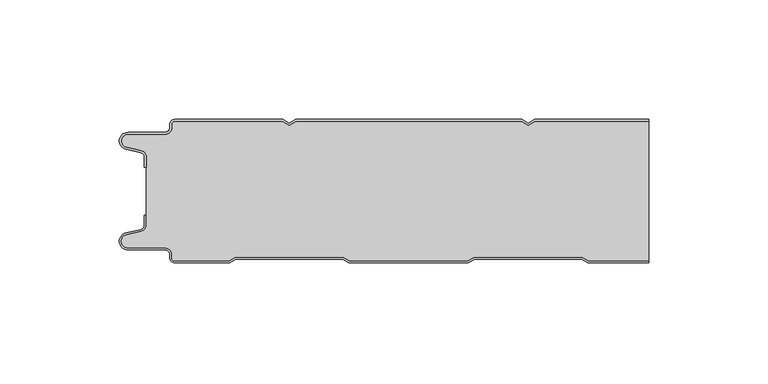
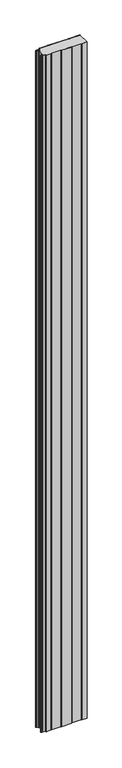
"""IFC4 building model written with IfcOpenShell, lengths in millimetres: plate geometry, PMH_Curtain-PaneL-Standard : ACH_PMH_Stone-wool-Panel_60M."""

from ifc_helpers import new_model, si_unit, point, frame_2d, origin, origin_with_axes, place, context, project, spatial, polyline, circle_curve, trimmed, segment, composite_curve, outline, extrude, source, transform, mapped, element, save


def plate_21ab614c(model_context):
    return source(origin(), model_context, "Body", "SweptSolid", [
        extrude(outline(composite_curve([segment(trimmed(circle_curve(frame_2d((-102.0, -15.878557)), 2.0), [point((-100.0, -15.878557))], [point((-101.5500978, -13.9298169))], True, "CARTESIAN"), True, "CONTINUOUS"), segment(polyline([(-101.5500978, -13.9298169), (-107.7098239, -12.507732)]), True, "CONTINUOUS"), segment(trimmed(circle_curve(frame_2d((-106.9, -9.0)), 3.6), [point((-107.7098239, -12.507732))], [point((-106.9, -5.4))], False, "CARTESIAN"), True, "CONTINUOUS"), segment(polyline([(-106.9, -5.4), (-91.4, -5.4)]), True, "CONTINUOUS"), segment(trimmed(circle_curve(frame_2d((-91.4, -3.4)), 2.0), [point((-91.4, -5.4))], [point((-89.4, -3.4))], True, "CARTESIAN"), True, "CONTINUOUS"), segment(polyline([(-89.4, -3.4), (-89.4, -2.0)]), True, "CONTINUOUS"), segment(trimmed(circle_curve(frame_2d((-87.4, -2.0)), 2.0), [point((-89.4, -2.0))], [point((-87.4, 0.0))], False, "CARTESIAN"), True, "CONTINUOUS"), segment(polyline([(-87.4, 0.0), (-42.0999995, 0.0), (-39.4, -1.5588455), (-36.7000005, 0.0), (57.9000005, 0.0), (60.6, -1.5588455), (63.2999995, 0.0), (111.0, 0.0), (111.0, -0.8), (63.5143588, -0.8), (60.6, -2.482606), (57.6856412, -0.8), (-36.4856412, -0.8), (-39.4, -2.482606), (-42.3143588, -0.8), (-87.4, -0.8)]), True, "CONTINUOUS"), segment(trimmed(circle_curve(frame_2d((-87.4, -2.0)), 1.2), [point((-87.4, -0.8))], [point((-88.6, -2.0))], True, "CARTESIAN"), True, "CONTINUOUS"), segment(polyline([(-88.6, -2.0), (-88.6, -3.4)]), True, "CONTINUOUS"), segment(trimmed(circle_curve(frame_2d((-91.4, -3.4)), 2.8), [point((-88.6, -3.4))], [point((-91.4, -6.2))], False, "CARTESIAN"), True, "CONTINUOUS"), segment(polyline([(-91.4, -6.2), (-106.9, -6.2)]), True, "CONTINUOUS"), segment(trimmed(circle_curve(frame_2d((-106.9, -9.0)), 2.8), [point((-106.9, -6.2))], [point((-107.529863, -11.7282362))], True, "CARTESIAN"), True, "CONTINUOUS"), segment(polyline([(-107.529863, -11.7282362), (-101.370137, -13.150321)]), True, "CONTINUOUS"), segment(trimmed(circle_curve(frame_2d((-102.0, -15.878557)), 2.8), [point((-101.370137, -13.150321))], [point((-99.2, -15.878557))], False, "CARTESIAN"), True, "CONTINUOUS"), segment(polyline([(-99.2, -15.878557), (-99.2, -20.0), (-100.0, -20.0), (-100.0, -15.878557)]), True, "CONTINUOUS")], self_intersect=False)), origin_with_axes(), (0.0, 0.0, 1.0), 3500.0),
        extrude(outline(composite_curve([segment(polyline([(-99.2, -44.121443), (-99.2, -15.8785573)]), True, "CONTINUOUS"), segment(trimmed(circle_curve(frame_2d((-102.0, -15.8785573)), 2.8), [point((-99.2, -15.8785573))], [point((-101.370137, -13.1503212))], True, "CARTESIAN"), True, "CONTINUOUS"), segment(polyline([(-101.370137, -13.1503212), (-107.5298631, -11.7282362)]), True, "CONTINUOUS"), segment(trimmed(circle_curve(frame_2d((-106.9, -9.0)), 2.8), [point((-107.5298631, -11.7282362))], [point((-106.9, -6.2))], False, "CARTESIAN"), True, "CONTINUOUS"), segment(polyline([(-106.9, -6.2), (-91.4000001, -6.2)]), True, "CONTINUOUS"), segment(trimmed(circle_curve(frame_2d((-91.4000001, -3.4)), 2.8), [point((-91.4000001, -6.2))], [point((-88.6000001, -3.4))], True, "CARTESIAN"), True, "CONTINUOUS"), segment(polyline([(-88.6000001, -3.4), (-88.6000001, -2.0)]), True, "CONTINUOUS"), segment(trimmed(circle_curve(frame_2d((-87.4000001, -2.0)), 1.2), [point((-88.6000001, -2.0))], [point((-87.4000001, -0.8))], False, "CARTESIAN"), True, "CONTINUOUS"), segment(polyline([(-87.4000001, -0.8), (-42.3143589, -0.8), (-39.4000001, -2.482606), (-36.4856412, -0.8), (57.6856411, -0.8), (60.5999999, -2.482606), (63.5143588, -0.8), (111.0, -0.8), (111.0, -59.2), (85.8105122, -59.2), (83.2124346, -57.7), (37.9837184, -57.7), (35.3856408, -59.2), (-14.1894878, -59.2), (-16.7875654, -57.7), (-62.0162816, -57.7), (-64.6143592, -59.2), (-87.4, -59.2)]), True, "CONTINUOUS"), segment(trimmed(circle_curve(frame_2d((-87.4, -58.0)), 1.2), [point((-87.4, -59.2))], [point((-88.6, -58.0))], False, "CARTESIAN"), True, "CONTINUOUS"), segment(polyline([(-88.6, -58.0), (-88.6, -56.5999998)]), True, "CONTINUOUS"), segment(trimmed(circle_curve(frame_2d((-91.4, -56.5999998)), 2.8), [point((-88.6, -56.5999998))], [point((-91.4, -53.7999998))], True, "CARTESIAN"), True, "CONTINUOUS"), segment(polyline([(-91.4, -53.7999998), (-106.9, -53.7999998)]), True, "CONTINUOUS"), segment(trimmed(circle_curve(frame_2d((-106.9, -51.0)), 2.7999998), [point((-106.9, -53.7999998))], [point((-107.529863, -48.271764))], False, "CARTESIAN"), True, "CONTINUOUS"), segment(polyline([(-107.529863, -48.271764), (-101.370137, -46.8496792)]), True, "CONTINUOUS"), segment(trimmed(circle_curve(frame_2d((-102.0, -44.121443)), 2.8), [point((-101.370137, -46.8496792))], [point((-99.2, -44.121443))], True, "CARTESIAN"), True, "CONTINUOUS")], self_intersect=False)), origin_with_axes(), (0.0, 0.0, 1.0), 3500.0),
        extrude(outline(composite_curve([segment(trimmed(circle_curve(frame_2d((-87.4, -58.0)), 2.0), [point((-87.4, -60.0))], [point((-89.4, -58.0))], False, "CARTESIAN"), True, "CONTINUOUS"), segment(polyline([(-89.4, -58.0), (-89.4, -56.6)]), True, "CONTINUOUS"), segment(trimmed(circle_curve(frame_2d((-91.4, -56.6)), 2.0), [point((-89.4, -56.6))], [point((-91.4, -54.6))], True, "CARTESIAN"), True, "CONTINUOUS"), segment(polyline([(-91.4, -54.6), (-106.9, -54.6)]), True, "CONTINUOUS"), segment(trimmed(circle_curve(frame_2d((-106.9, -51.0)), 3.6), [point((-106.9, -54.6))], [point((-107.7098239, -47.4922678))], False, "CARTESIAN"), True, "CONTINUOUS"), segment(polyline([(-107.7098239, -47.4922678), (-101.5500979, -46.070183)]), True, "CONTINUOUS"), segment(trimmed(circle_curve(frame_2d((-102.0, -44.121443)), 2.0), [point((-101.5500979, -46.070183))], [point((-100.0, -44.121443))], True, "CARTESIAN"), True, "CONTINUOUS"), segment(polyline([(-100.0, -44.121443), (-100.0, -40.0), (-99.2, -40.0), (-99.2, -44.121443)]), True, "CONTINUOUS"), segment(trimmed(circle_curve(frame_2d((-102.0, -44.121443)), 2.8), [point((-99.2, -44.121443))], [point((-101.370137, -46.8496792))], False, "CARTESIAN"), True, "CONTINUOUS"), segment(polyline([(-101.370137, -46.8496792), (-107.529863, -48.271764)]), True, "CONTINUOUS"), segment(trimmed(circle_curve(frame_2d((-106.9, -51.0)), 2.8), [point((-107.529863, -48.271764))], [point((-106.9, -53.8))], True, "CARTESIAN"), True, "CONTINUOUS"), segment(polyline([(-106.9, -53.8), (-91.4, -53.8)]), True, "CONTINUOUS"), segment(trimmed(circle_curve(frame_2d((-91.4, -56.6)), 2.8), [point((-91.4, -53.8))], [point((-88.6, -56.6))], False, "CARTESIAN"), True, "CONTINUOUS"), segment(polyline([(-88.6, -56.6), (-88.6, -58.0)]), True, "CONTINUOUS"), segment(trimmed(circle_curve(frame_2d((-87.4, -58.0)), 1.2), [point((-88.6, -58.0))], [point((-87.4, -59.2))], True, "CARTESIAN"), True, "CONTINUOUS"), segment(polyline([(-87.4, -59.2), (-64.6143592, -59.2), (-62.0162816, -57.7), (-16.7875654, -57.7), (-14.1894878, -59.2), (35.3856408, -59.2), (37.9837184, -57.7), (83.2124346, -57.7), (85.8105122, -59.2), (111.0, -59.2), (111.0, -60.0), (85.5961529, -60.0), (82.9980753, -58.5), (38.1980777, -58.5), (35.6000001, -60.0), (-14.4038471, -60.0), (-17.0019247, -58.5), (-61.8019223, -58.5), (-64.3999999, -60.0), (-87.4, -60.0)]), True, "CONTINUOUS")], self_intersect=False)), origin_with_axes(), (0.0, 0.0, 1.0), 3500.0),
    ])


if __name__ == "__main__":
    model = new_model("IFC4")
    model_context = context("Model", 3, world=origin())
    ifc_project = project(units=[si_unit("LENGTHUNIT", "METRE", prefix="MILLI")], contexts=[model_context])
    site = spatial("IfcSite", under=ifc_project)
    building = spatial("IfcBuilding", under=site)
    placement = place(None, origin())
    plate_shape = plate_21ab614c(model_context)
    element("IfcPlate", 1, ObjectType="PMH_Curtain-PaneL-Standard : ACH_PMH_Stone-wool-Panel_60M", at=placement, inside=building, context=model_context, shape_type="MappedRepresentation", body=[
        mapped(plate_shape, transform((0.0, 0.0, 0.0), x_axis=(1.0, 0.0, 0.0), y_axis=(0.0, 1.0, 0.0), z_axis=(0.0, 0.0, 1.0))),
    ])
    save(model, "model.ifc")
